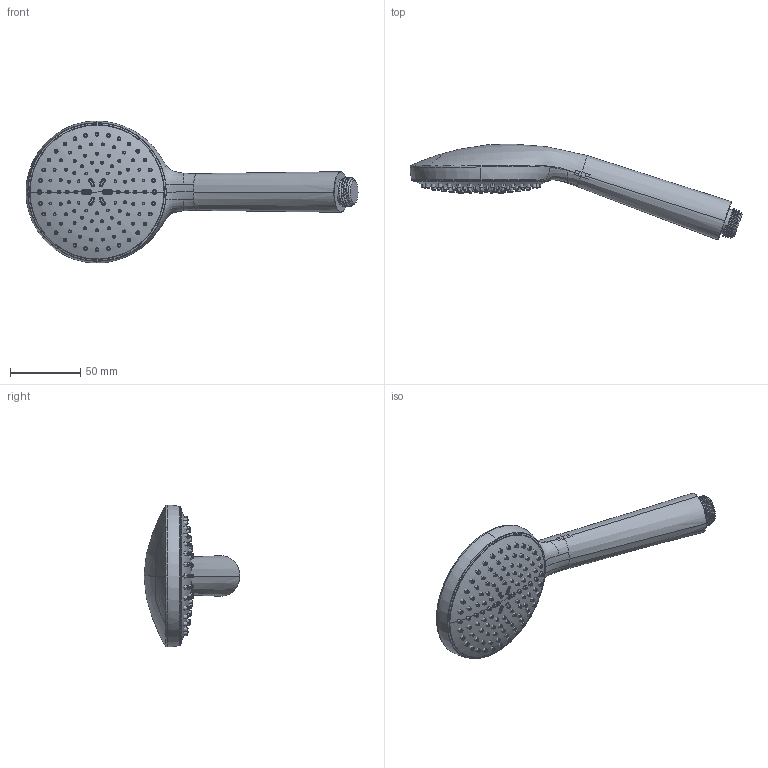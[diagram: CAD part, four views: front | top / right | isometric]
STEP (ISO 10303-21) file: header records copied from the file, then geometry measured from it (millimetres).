
FILE_DESCRIPTION((''),'2;1');
FILE_NAME('59341--00_SCRINKWRAP','2026-09-07T15:03:38',('clra1'),(''),'CREO PARAMETRIC BY PTC INC, 2022244','CREO PARAMETRIC BY PTC INC, 2022244','');
FILE_SCHEMA(('CONFIG_CONTROL_DESIGN'));
Length unit declared in the file: millimetre
Products named in the file (1): 59341--00_SCRINKWRAP
Bounding box: 237.07 x 68.55 x 101.39 mm (x, y, z)
Surface area: 37429 mm2 (no closed solid volume)
Topology: 0 solids, 117 shells, 760 faces, 1989 edges, 1332 vertices
Faces by surface type: torus 261, cone 232, plane 140, bspline 69, cylinder 55, revolution 3
Entity records: 35949 total; most frequent: CARTESIAN_POINT 17582, DIRECTION 4079, ORIENTED_EDGE 3687, EDGE_CURVE 1987, AXIS2_PLACEMENT_3D 1860, VERTEX_POINT 1332, CIRCLE 1172, EDGE_LOOP 760
